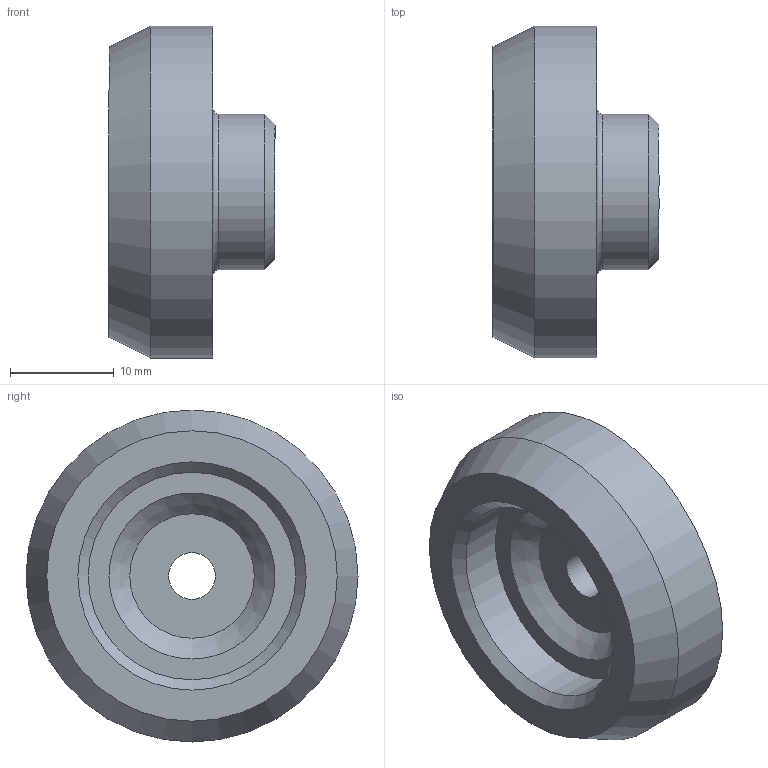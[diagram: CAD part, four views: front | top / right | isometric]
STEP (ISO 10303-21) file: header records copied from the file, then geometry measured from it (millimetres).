
FILE_DESCRIPTION(/* description */ (''),/* implementation_level */ '2;1');
FILE_NAME(/* name */ '',/* time_stamp */ '2026-07-30T15:25:22+09:00',/* author */ ('jhkim'),/* organization */ (''),/* preprocessor_version */ 'ST-DEVELOPER v20.1',/* originating_system */ 'Autodesk Inventor 2027',/* authorisation */ '');
FILE_SCHEMA (('AUTOMOTIVE_DESIGN { 1 0 10303 214 3 1 1 }'));
Length unit declared in the file: millimetre
Products named in the file (1): 어댑터 슬리브
Bounding box: 16 x 32 x 32 mm (x, y, z)
Volume: 6484.2 mm3; surface area: 3147.6 mm2
Topology: 1 solids, 1 shells, 16 faces, 28 edges, 18 vertices
Faces by surface type: plane 6, cylinder 5, cone 4, torus 1
Full cylindrical faces by diameter (mm): 4.5 x1, 8 x1, 15 x1, 20 x1, 32 x1
Entity records: 442 total; most frequent: DIRECTION 81, CARTESIAN_POINT 63, ORIENTED_EDGE 56, AXIS2_PLACEMENT_3D 36, EDGE_CURVE 28, EDGE_LOOP 22, CIRCLE 19, VERTEX_POINT 18
